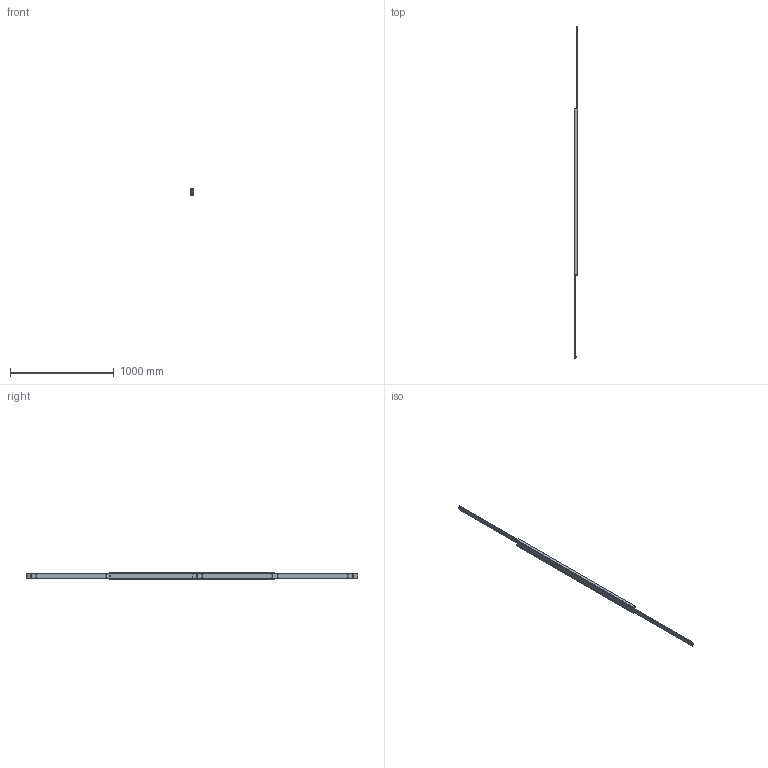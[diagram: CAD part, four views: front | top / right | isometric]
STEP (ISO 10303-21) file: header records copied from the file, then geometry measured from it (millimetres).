
FILE_DESCRIPTION(/* description */ (''),/* implementation_level */ '2;1');
FILE_NAME(/* name */ 'D:\Zeichnungen Schienen Komplett\MX-DTP70\MX-DTP70.160\MX-DTP70.160_ausgefahren.step',/* time_stamp */ '2021-12-15T14:33:58+01:00',/* author */ ('zmile'),/* organization */ (''),/* preprocessor_version */ 'ST-DEVELOPER v16.13',/* originating_system */ 'AutoCAD Mechanical',/* authorisation */ '');
FILE_SCHEMA (('AUTOMOTIVE_DESIGN { 1 0 10303 214 3 1 1 }'));
Length unit declared in the file: millimetre
Products named in the file (1): Product
Bounding box: 32 x 3200 x 70 mm (x, y, z)
Volume: 2726517.7 mm3; surface area: 897588.2 mm2
Topology: 61 solids, 63 shells, 190 faces, 632 edges, 456 vertices
Faces by surface type: plane 82, sphere 56, cylinder 38, bspline 8, torus 6
Full cylindrical faces by diameter (mm): 8 x24, 13 x2
Entity records: 12955 total; most frequent: CARTESIAN_POINT 7587, DIRECTION 1090, ORIENTED_EDGE 828, EDGE_CURVE 486, VERTEX_POINT 454, AXIS2_PLACEMENT_3D 439, EDGE_LOOP 386, CIRCLE 252
